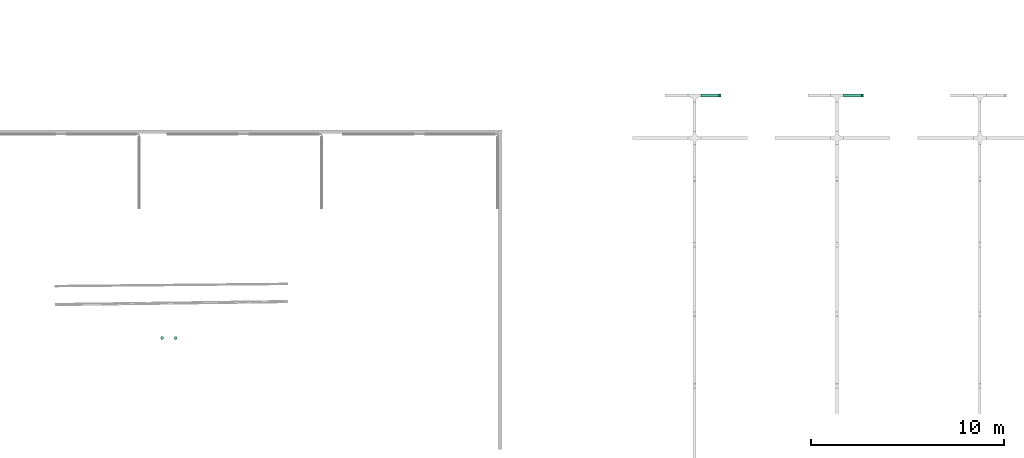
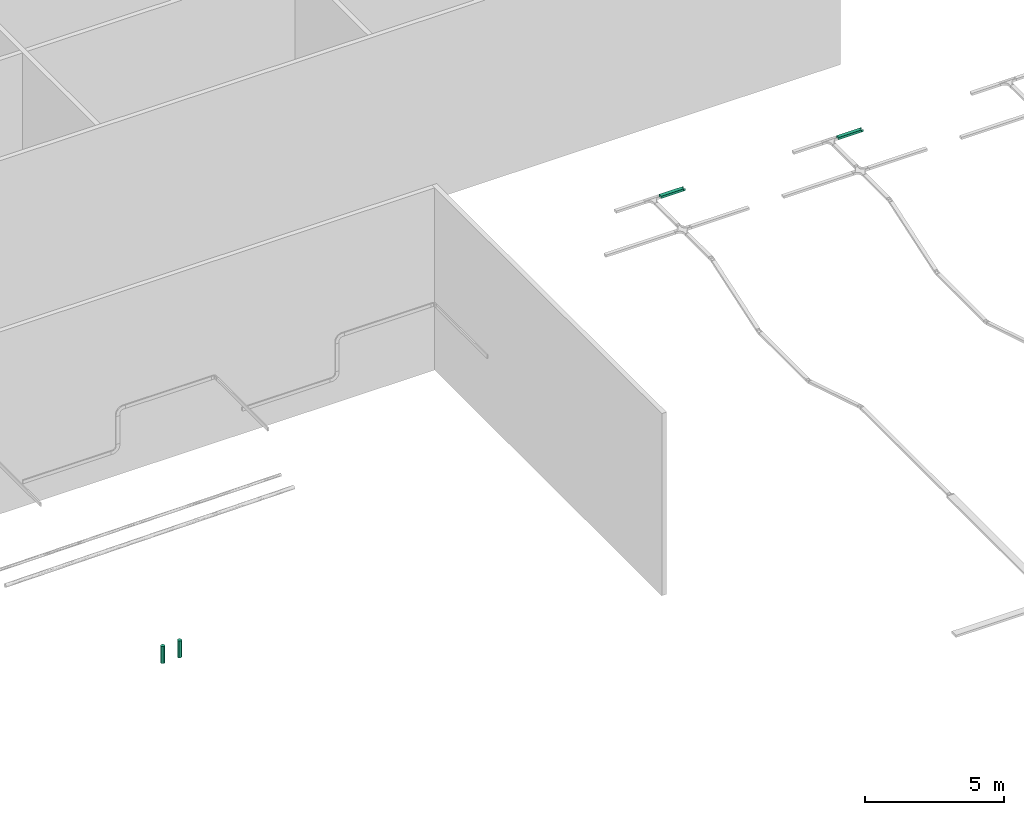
# One storey, part 22 of 197: 4 flow segments, 2 flow fittings.
"""IFC2X3 building model written with IfcOpenShell, lengths in metres."""

from ifc_helpers import new_model, entity, si_unit, converted_unit, direction, frame, frame_2d, origin, place, context, subcontext, project, spatial, polyline, rectangle, circle, outline, extrude, source, transform, mapped, material, type_object, type_shapes, element, save


model = new_model("IFC2X3")

# Units and contexts
model_context = context("Model", 3, precision=1e-05, world=origin(), true_north=direction((6.123031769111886e-17, 1.0)))
body_context = subcontext(model_context, "Body", "Model", "MODEL_VIEW")
ifc_project = project(units=[si_unit("LENGTHUNIT", "METRE"), converted_unit("PLANEANGLEUNIT", "DEGREE", entity("IfcPlaneAngleMeasure", 0.017453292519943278), si_unit("PLANEANGLEUNIT", "RADIAN"), dimensions=[0, 0, 0, 0, 0, 0, 0]), si_unit("AREAUNIT", "SQUARE_METRE")], contexts=[model_context])

# Site, building, storey
site_placement = place(None, origin())
site = spatial("IfcSite", under=ifc_project, at=site_placement, Name="Default", CompositionType="ELEMENT")
building_placement = place(site_placement, origin())
building = spatial("IfcBuilding", under=site, at=building_placement, CompositionType="ELEMENT")
storey_placement = place(building_placement, origin())
storey = spatial("IfcBuildingStorey", under=building, at=storey_placement, Name="Niveau 0", CompositionType="ELEMENT", Elevation=0.0)

# Flow segment
cable_carrier_segment_type_1 = type_object("IfcCableCarrierSegmentType", Name="Chemin de câbles avec raccords:CDC CFA", PredefinedType="CABLETRAYSEGMENT")
flow_segment_1_placement = place(storey_placement, origin())
element("IfcFlowSegment", 1, at=flow_segment_1_placement, inside=storey, type_object=cable_carrier_segment_type_1, Name="Chemin de câbles avec raccords:CDC CFA", ObjectType="Chemin de câbles avec raccords:CDC CFA", context=body_context, shape_type="SweptSolid", body=[
    extrude(rectangle(XDim=0.9460000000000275, YDim=0.15000000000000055, at=frame_2d((-3.4638958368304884e-14, 0.0), x_axis=(1.0, 0.0))), frame((-509.31598006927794, 153.82491437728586, 2.6999999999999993)), (0.0, 0.0, 1.0), 0.1),
])

# Flow fitting
ifc_material = material(Name="<Unnamed>")
cable_carrier_fitting_type_1 = type_object("IfcCableCarrierFittingType", Name="Chemin de câbles - Union:CDC CFA", PredefinedType="NOTDEFINED", material=ifc_material)
shared_shape_1 = source(origin(), body_context, "Body", "SweptSolid", [
    extrude(outline(polyline([(-0.0749999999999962, -0.05063499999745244), (0.07499999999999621, -0.05063499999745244), (0.07499999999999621, 0.049365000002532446), (0.0724600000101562, 0.049365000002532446), (0.0724600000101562, -0.04809500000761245), (-0.07246000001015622, -0.04809500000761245), (-0.0724600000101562, 0.049365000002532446), (-0.0749999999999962, 0.049365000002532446), (-0.0749999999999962, -0.05063499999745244)])), frame((0.0, 0.0, 0.000634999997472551), z_axis=(1.0, 0.0, 0.0), x_axis=(0.0, 1.0, 0.0)), (0.0, 0.0, 1.0), 0.07999999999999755),
])
type_shapes(cable_carrier_fitting_type_1, [shared_shape_1])
flow_fitting_1_placement = place(storey_placement, frame((-508.842980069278, 153.82491437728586, 2.7499999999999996)))
element("IfcFlowFitting", 2, at=flow_fitting_1_placement, inside=storey, type_object=cable_carrier_fitting_type_1, material=ifc_material, Name="Chemin de câbles - Union:CDC CFA", ObjectType="Chemin de câbles - Union:CDC CFA", context=body_context, shape_type="MappedRepresentation", body=[
    mapped(shared_shape_1, transform((0.0, 0.0, 0.0), scale=1.0)),
])

# Flow segment
cable_carrier_segment_type_2 = type_object("IfcCableCarrierSegmentType", Name="Chemin de câbles avec raccords:CDC CFO", PredefinedType="CABLETRAYSEGMENT")
flow_segment_2_placement = place(storey_placement, origin())
element("IfcFlowSegment", 3, at=flow_segment_2_placement, inside=storey, type_object=cable_carrier_segment_type_2, Name="Chemin de câbles avec raccords:CDC CFO", ObjectType="Chemin de câbles avec raccords:CDC CFO", context=body_context, shape_type="SweptSolid", body=[
    extrude(rectangle(XDim=0.9460000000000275, YDim=0.15000000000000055, at=frame_2d((3.4638958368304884e-14, 0.0), x_axis=(1.0, 0.0))), frame((-501.9289800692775, 153.82491437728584, 2.6999999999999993)), (0.0, 0.0, 1.0), 0.1),
])

# Flow fitting
cable_carrier_fitting_type_2 = type_object("IfcCableCarrierFittingType", Name="Chemin de câbles - Union:CDC CFO", PredefinedType="NOTDEFINED", material=ifc_material)
shared_shape_2 = source(origin(), body_context, "Body", "SweptSolid", [
    extrude(outline(polyline([(-0.0749999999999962, -0.05063499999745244), (0.07499999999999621, -0.05063499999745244), (0.07499999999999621, 0.049365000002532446), (0.0724600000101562, 0.049365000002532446), (0.0724600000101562, -0.04809500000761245), (-0.07246000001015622, -0.04809500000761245), (-0.0724600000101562, 0.049365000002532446), (-0.0749999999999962, 0.049365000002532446), (-0.0749999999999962, -0.05063499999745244)])), frame((0.0, 0.0, 0.000634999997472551), z_axis=(1.0, 0.0, 0.0), x_axis=(0.0, 1.0, 0.0)), (0.0, 0.0, 1.0), 0.07999999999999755),
])
type_shapes(cable_carrier_fitting_type_2, [shared_shape_2])
flow_fitting_2_placement = place(storey_placement, frame((-501.4559800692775, 153.82491437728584, 2.7499999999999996)))
element("IfcFlowFitting", 4, at=flow_fitting_2_placement, inside=storey, type_object=cable_carrier_fitting_type_2, material=ifc_material, Name="Chemin de câbles - Union:CDC CFO", ObjectType="Chemin de câbles - Union:CDC CFO", context=body_context, shape_type="MappedRepresentation", body=[
    mapped(shared_shape_2, transform((0.0, 0.0, 0.0), scale=1.0)),
])

# Flow segments
cable_carrier_segment_type_3 = type_object("IfcCableCarrierSegmentType", Name="Conduit avec raccords:Traversé dalle-CFA", PredefinedType="CONDUITSEGMENT")
flow_segment_3_placement = place(storey_placement, origin())
element("IfcFlowSegment", 5, at=flow_segment_3_placement, inside=storey, type_object=cable_carrier_segment_type_3, Name="Conduit avec raccords:Traversé dalle-CFA", ObjectType="Conduit avec raccords:Traversé dalle-CFA", context=body_context, shape_type="SweptSolid", body=[
    extrude(circle(Radius=0.08, at=frame_2d((0.0, -1.7325874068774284e-14), x_axis=(1.0, 0.0))), frame((-537.692530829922, 141.26712467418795, -0.33080701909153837), z_axis=(0.0, 0.0, 1.0), x_axis=(-1.0, 0.0, 0.0)), (0.0, 0.0, 1.0), 0.7449999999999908),
])
cable_carrier_segment_type_4 = type_object("IfcCableCarrierSegmentType", Name="Conduit avec raccords:Traversé dalle-CFO", PredefinedType="CONDUITSEGMENT")
flow_segment_4_placement = place(storey_placement, origin())
element("IfcFlowSegment", 6, at=flow_segment_4_placement, inside=storey, type_object=cable_carrier_segment_type_4, Name="Conduit avec raccords:Traversé dalle-CFO", ObjectType="Conduit avec raccords:Traversé dalle-CFO", context=body_context, shape_type="SweptSolid", body=[
    extrude(circle(Radius=0.08, at=frame_2d((0.0, -1.7325874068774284e-14), x_axis=(1.0, 0.0))), frame((-536.9919858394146, 141.26712467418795, -0.33080701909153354), z_axis=(0.0, 0.0, 1.0), x_axis=(-1.0, 0.0, 0.0)), (0.0, 0.0, 1.0), 0.744999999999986),
])

save(model, "model.ifc")
